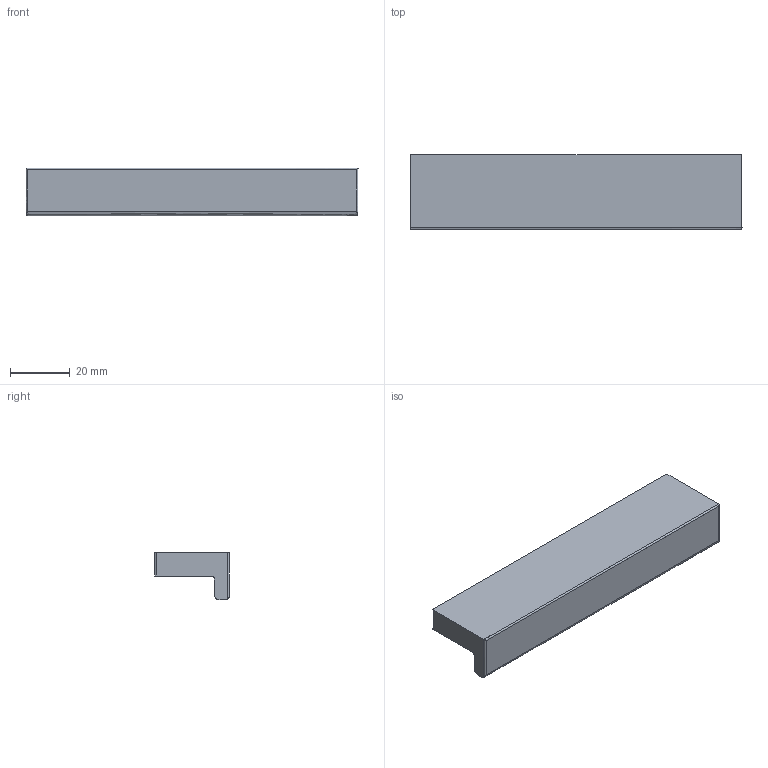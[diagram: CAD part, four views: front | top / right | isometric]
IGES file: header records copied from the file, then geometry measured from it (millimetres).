
Start section: Data from Parasolid IGES Translator 15.0.47, Copyright(c) 2006 Siemens P LM Software. All Rights Reserved.
Global section: file name: 9204023.igs; native system:  By UGS Corp.; preprocessor: XPlus GENERIC/IGES 3.0; author: Noname; organization: Noname; date: 20151204.112617; units: millimetre
Bounding box: 111.01 x 25 x 16 mm (x, y, z)
Surface area: 9607.2 mm2 (no closed solid volume)
Topology: 0 solids, 0 shells, 20 faces, 92 edges, 90 vertices
Faces by surface type: extrusion 10, revolution 10
